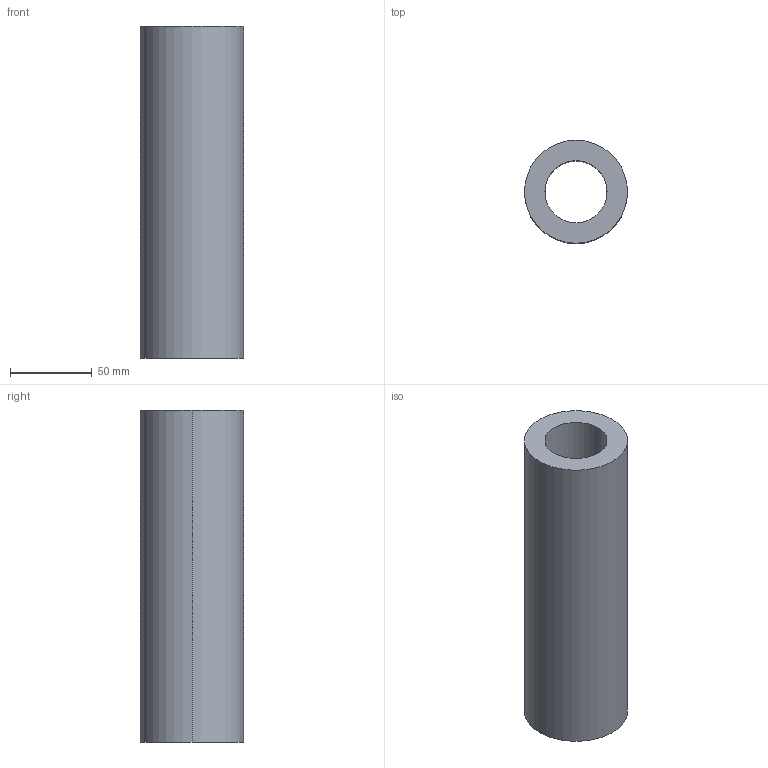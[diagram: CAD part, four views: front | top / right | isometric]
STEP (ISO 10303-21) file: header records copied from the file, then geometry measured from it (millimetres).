
FILE_DESCRIPTION (( 'STEP AP214' ), '1' );
FILE_NAME ('BRA-63X203.STEP', '2020-07-20T12:02:11', ( 'August' ), ( '' ), 'SwSTEP 2.0', 'SolidWorks 2018', '' );
FILE_SCHEMA (( 'AUTOMOTIVE_DESIGN' ));
Length unit declared in the file: millimetre
Products named in the file (1): BRA-63X203
Bounding box: 63 x 63 x 203 mm (x, y, z)
Volume: 402575.5 mm3; surface area: 68378.3 mm2
Topology: 1 solids, 1 shells, 6 faces, 12 edges, 8 vertices
Faces by surface type: cylinder 4, plane 2
Entity records: 202 total; most frequent: DIRECTION 34, CARTESIAN_POINT 27, ORIENTED_EDGE 24, AXIS2_PLACEMENT_3D 15, EDGE_CURVE 12, CIRCLE 8, VERTEX_POINT 8, EDGE_LOOP 8
